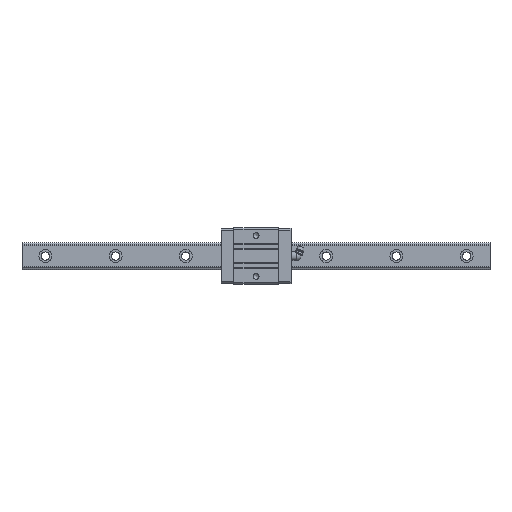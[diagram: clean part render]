
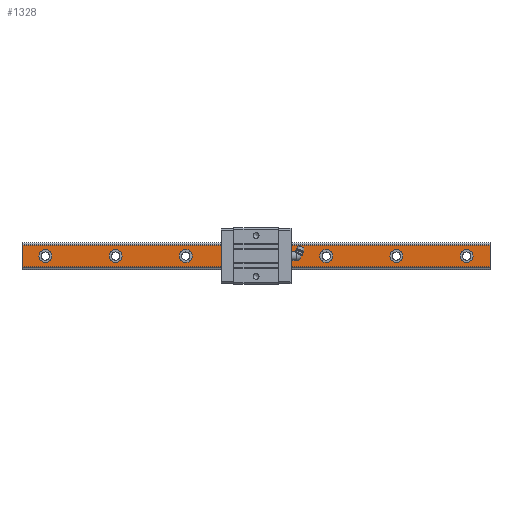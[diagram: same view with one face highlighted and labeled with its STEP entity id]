
A CAD part, top view. The second image highlights one B-rep face of the part: STEP entity #1328.
In plain terms, the highlighted planar face has unit normal (0, 0, 1).
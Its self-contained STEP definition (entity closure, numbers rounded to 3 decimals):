
#137=CARTESIAN_POINT('',(385.5,0.,18.0));
#138=VERTEX_POINT('',#137);
#139=CARTESIAN_POINT('',(380.0,0.,18.0));
#140=DIRECTION('',(0.0,0.0,-1.0));
#141=DIRECTION('',(1.0,0.0,0.0));
#142=AXIS2_PLACEMENT_3D('',#139,#140,#141);
#143=CIRCLE('',#142,5.5);
#144=EDGE_CURVE('',#138,#138,#143,.T.);
#247=CARTESIAN_POINT('',(325.5,0.,18.0));
#248=VERTEX_POINT('',#247);
#249=CARTESIAN_POINT('',(320.0,0.,18.0));
#250=DIRECTION('',(0.0,0.0,-1.0));
#251=DIRECTION('',(1.0,0.0,0.0));
#252=AXIS2_PLACEMENT_3D('',#249,#250,#251);
#253=CIRCLE('',#252,5.5);
#254=EDGE_CURVE('',#248,#248,#253,.T.);
#357=CARTESIAN_POINT('',(265.5,0.,18.0));
#358=VERTEX_POINT('',#357);
#359=CARTESIAN_POINT('',(260.0,0.,18.0));
#360=DIRECTION('',(0.0,0.0,-1.0));
#361=DIRECTION('',(1.0,0.0,0.0));
#362=AXIS2_PLACEMENT_3D('',#359,#360,#361);
#363=CIRCLE('',#362,5.5);
#364=EDGE_CURVE('',#358,#358,#363,.T.);
#467=CARTESIAN_POINT('',(205.5,0.,18.0));
#468=VERTEX_POINT('',#467);
#469=CARTESIAN_POINT('',(200.0,0.,18.0));
#470=DIRECTION('',(0.0,0.0,-1.0));
#471=DIRECTION('',(1.0,0.0,0.0));
#472=AXIS2_PLACEMENT_3D('',#469,#470,#471);
#473=CIRCLE('',#472,5.5);
#474=EDGE_CURVE('',#468,#468,#473,.T.);
#577=CARTESIAN_POINT('',(145.5,0.,18.0));
#578=VERTEX_POINT('',#577);
#579=CARTESIAN_POINT('',(140.0,0.,18.0));
#580=DIRECTION('',(0.0,0.0,-1.0));
#581=DIRECTION('',(1.0,0.0,0.0));
#582=AXIS2_PLACEMENT_3D('',#579,#580,#581);
#583=CIRCLE('',#582,5.5);
#584=EDGE_CURVE('',#578,#578,#583,.T.);
#687=CARTESIAN_POINT('',(85.5,0.,18.0));
#688=VERTEX_POINT('',#687);
#689=CARTESIAN_POINT('',(80.0,0.,18.0));
#690=DIRECTION('',(0.0,0.0,-1.0));
#691=DIRECTION('',(1.0,0.0,0.0));
#692=AXIS2_PLACEMENT_3D('',#689,#690,#691);
#693=CIRCLE('',#692,5.5);
#694=EDGE_CURVE('',#688,#688,#693,.T.);
#797=CARTESIAN_POINT('',(25.5,0.,18.0));
#798=VERTEX_POINT('',#797);
#799=CARTESIAN_POINT('',(20.0,0.,18.0));
#800=DIRECTION('',(0.0,0.0,-1.0));
#801=DIRECTION('',(1.0,0.0,0.0));
#802=AXIS2_PLACEMENT_3D('',#799,#800,#801);
#803=CIRCLE('',#802,5.5);
#804=EDGE_CURVE('',#798,#798,#803,.T.);
#1251=CARTESIAN_POINT('',(400.0,-9.067,18.0));
#1252=VERTEX_POINT('',#1251);
#1259=CARTESIAN_POINT('',(0.0,-9.067,18.0));
#1260=VERTEX_POINT('',#1259);
#1261=CARTESIAN_POINT('',(0.0,-9.067,18.0));
#1262=DIRECTION('',(1.0,0.0,0.0));
#1263=VECTOR('',#1262,400.0);
#1264=LINE('',#1261,#1263);
#1265=EDGE_CURVE('',#1260,#1252,#1264,.T.);
#1277=CARTESIAN_POINT('',(0.0,-9.067,18.0));
#1278=DIRECTION('',(0.0,0.0,1.0));
#1279=DIRECTION('',(1.0,0.0,0.0));
#1280=AXIS2_PLACEMENT_3D('',#1277,#1278,#1279);
#1281=PLANE('',#1280);
#1282=CARTESIAN_POINT('',(400.0,9.067,18.0));
#1283=VERTEX_POINT('',#1282);
#1284=CARTESIAN_POINT('',(400.0,-9.067,18.0));
#1285=DIRECTION('',(0.0,1.0,0.0));
#1286=VECTOR('',#1285,18.135);
#1287=LINE('',#1284,#1286);
#1288=EDGE_CURVE('',#1252,#1283,#1287,.T.);
#1289=ORIENTED_EDGE('',*,*,#1288,.T.);
#1290=CARTESIAN_POINT('',(0.0,9.067,18.0));
#1291=VERTEX_POINT('',#1290);
#1292=CARTESIAN_POINT('',(0.0,9.067,18.0));
#1293=DIRECTION('',(1.0,0.0,0.0));
#1294=VECTOR('',#1293,400.0);
#1295=LINE('',#1292,#1294);
#1296=EDGE_CURVE('',#1291,#1283,#1295,.T.);
#1297=ORIENTED_EDGE('',*,*,#1296,.F.);
#1298=CARTESIAN_POINT('',(0.0,-9.067,18.0));
#1299=DIRECTION('',(0.0,1.0,0.0));
#1300=VECTOR('',#1299,18.135);
#1301=LINE('',#1298,#1300);
#1302=EDGE_CURVE('',#1260,#1291,#1301,.T.);
#1303=ORIENTED_EDGE('',*,*,#1302,.F.);
#1304=ORIENTED_EDGE('',*,*,#1265,.T.);
#1305=EDGE_LOOP('',(#1289,#1297,#1303,#1304));
#1306=FACE_OUTER_BOUND('',#1305,.T.);
#1307=ORIENTED_EDGE('',*,*,#144,.T.);
#1308=EDGE_LOOP('',(#1307));
#1309=FACE_BOUND('',#1308,.T.);
#1310=ORIENTED_EDGE('',*,*,#254,.T.);
#1311=EDGE_LOOP('',(#1310));
#1312=FACE_BOUND('',#1311,.T.);
#1313=ORIENTED_EDGE('',*,*,#364,.T.);
#1314=EDGE_LOOP('',(#1313));
#1315=FACE_BOUND('',#1314,.T.);
#1316=ORIENTED_EDGE('',*,*,#474,.T.);
#1317=EDGE_LOOP('',(#1316));
#1318=FACE_BOUND('',#1317,.T.);
#1319=ORIENTED_EDGE('',*,*,#584,.T.);
#1320=EDGE_LOOP('',(#1319));
#1321=FACE_BOUND('',#1320,.T.);
#1322=ORIENTED_EDGE('',*,*,#694,.T.);
#1323=EDGE_LOOP('',(#1322));
#1324=FACE_BOUND('',#1323,.T.);
#1325=ORIENTED_EDGE('',*,*,#804,.T.);
#1326=EDGE_LOOP('',(#1325));
#1327=FACE_BOUND('',#1326,.T.);
#1328=ADVANCED_FACE('',(#1306,#1309,#1312,#1315,#1318,#1321,#1324,#1327),#1281,.T.);
